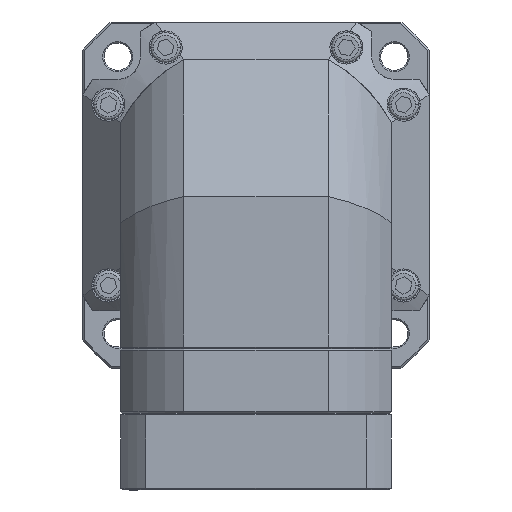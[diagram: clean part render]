
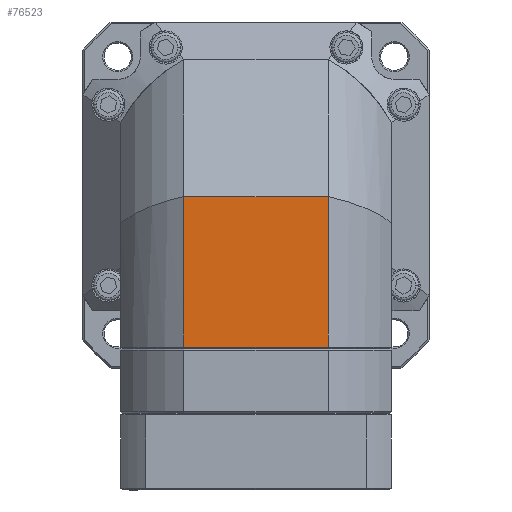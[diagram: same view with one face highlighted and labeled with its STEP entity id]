
A CAD part, front view. The second image highlights one B-rep face of the part: STEP entity #76523.
In plain terms, the highlighted planar face has unit normal (0, 1, 0).
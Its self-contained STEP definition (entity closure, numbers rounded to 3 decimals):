
#1513 = VERTEX_POINT ( 'NONE', #23116 ) ;
#2464 = EDGE_CURVE ( 'NONE', #1513, #87674, #67465, .T. ) ;
#6217 = VECTOR ( 'NONE', #8377, 1000. ) ;
#8377 = DIRECTION ( 'NONE',  ( 0., 0., -1. ) ) ;
#13749 = EDGE_LOOP ( 'NONE', ( #94481, #99844, #21781, #71881 ) ) ;
#15612 = AXIS2_PLACEMENT_3D ( 'NONE', #75805, #28006, #83830 ) ;
#18530 = CARTESIAN_POINT ( 'NONE',  ( -24., -225.611, -25.35 ) ) ;
#21781 = ORIENTED_EDGE ( 'NONE', *, *, #102619, .T. ) ;
#23116 = CARTESIAN_POINT ( 'NONE',  ( 24., -225.611, -0.5 ) ) ;
#25277 = EDGE_CURVE ( 'NONE', #81278, #1513, #70689, .T. ) ;
#26627 = DIRECTION ( 'NONE',  ( 0., 0., 1. ) ) ;
#28006 = DIRECTION ( 'NONE',  ( 0., -1., 0. ) ) ;
#28250 = VECTOR ( 'NONE', #32506, 1000. ) ;
#32256 = VECTOR ( 'NONE', #87906, 1000. ) ;
#32506 = DIRECTION ( 'NONE',  ( 1., 0., 0. ) ) ;
#34110 = CARTESIAN_POINT ( 'NONE',  ( -24., -225.611, -0.5 ) ) ;
#39783 = CARTESIAN_POINT ( 'NONE',  ( 0., -225.611, -50.5 ) ) ;
#39799 = CARTESIAN_POINT ( 'NONE',  ( 24., -225.611, -50.5 ) ) ;
#41838 = VECTOR ( 'NONE', #26627, 1000. ) ;
#42121 = CARTESIAN_POINT ( 'NONE',  ( -24., -225.611, -50.5 ) ) ;
#53419 = LINE ( 'NONE', #39783, #32256 ) ;
#58249 = EDGE_CURVE ( 'NONE', #83251, #87674, #53419, .T. ) ;
#62969 = LINE ( 'NONE', #18530, #41838 ) ;
#64217 = CARTESIAN_POINT ( 'NONE',  ( 0., -225.611, -0.5 ) ) ;
#64299 = CARTESIAN_POINT ( 'NONE',  ( 24., -225.611, -25.35 ) ) ;
#67465 = LINE ( 'NONE', #64299, #6217 ) ;
#70689 = LINE ( 'NONE', #64217, #28250 ) ;
#71881 = ORIENTED_EDGE ( 'NONE', *, *, #25277, .T. ) ;
#75805 = CARTESIAN_POINT ( 'NONE',  ( -24., -225.611, -50.5 ) ) ;
#76523 = ADVANCED_FACE ( 'NONE', ( #87745 ), #83490, .F. ) ;
#81278 = VERTEX_POINT ( 'NONE', #34110 ) ;
#83251 = VERTEX_POINT ( 'NONE', #42121 ) ;
#83490 = PLANE ( 'NONE',  #15612 ) ;
#83830 = DIRECTION ( 'NONE',  ( 1., 0., 0. ) ) ;
#87674 = VERTEX_POINT ( 'NONE', #39799 ) ;
#87745 = FACE_OUTER_BOUND ( 'NONE', #13749, .T. ) ;
#87906 = DIRECTION ( 'NONE',  ( 1., 0., 0. ) ) ;
#94481 = ORIENTED_EDGE ( 'NONE', *, *, #2464, .T. ) ;
#99844 = ORIENTED_EDGE ( 'NONE', *, *, #58249, .F. ) ;
#102619 = EDGE_CURVE ( 'NONE', #83251, #81278, #62969, .T. ) ;
